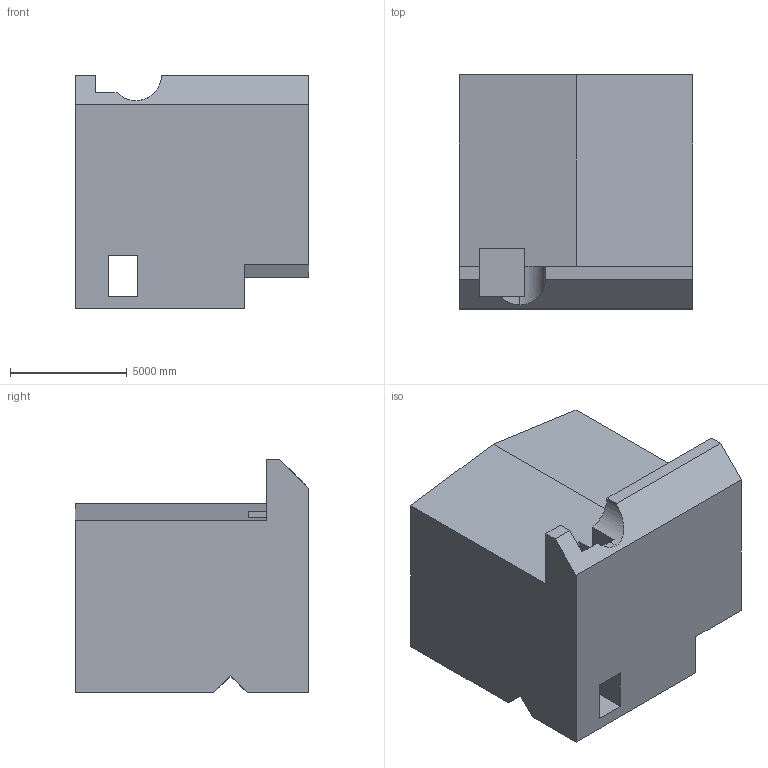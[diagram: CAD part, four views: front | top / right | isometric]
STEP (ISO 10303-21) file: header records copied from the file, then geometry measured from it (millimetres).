
FILE_DESCRIPTION (( 'STEP AP203' ), '1' );
FILE_NAME ('172.STEP', '2022-08-31T14:56:28', ( 'user' ), ( '' ), 'SwSTEP 2.0', 'SolidWorks 2021', '' );
FILE_SCHEMA (( 'CONFIG_CONTROL_DESIGN' ));
Length unit declared in the file: centimetre
Products named in the file (1): 172
Bounding box: 10000 x 10000 x 10000 mm (x, y, z)
Volume: 696300194291.5 mm3; surface area: 666479735.2 mm2
Topology: 1 solids, 1 shells, 41 faces, 120 edges, 80 vertices
Faces by surface type: plane 37, cylinder 4
Entity records: 1425 total; most frequent: CARTESIAN_POINT 263, ORIENTED_EDGE 240, DIRECTION 203, EDGE_CURVE 120, LINE 107, VECTOR 107, VERTEX_POINT 80, AXIS2_PLACEMENT_3D 48
